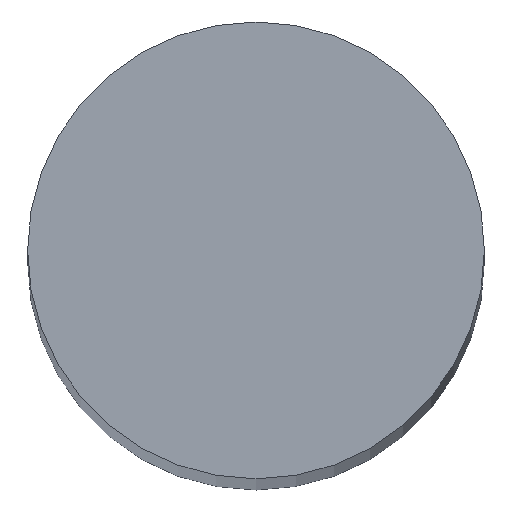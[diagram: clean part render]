
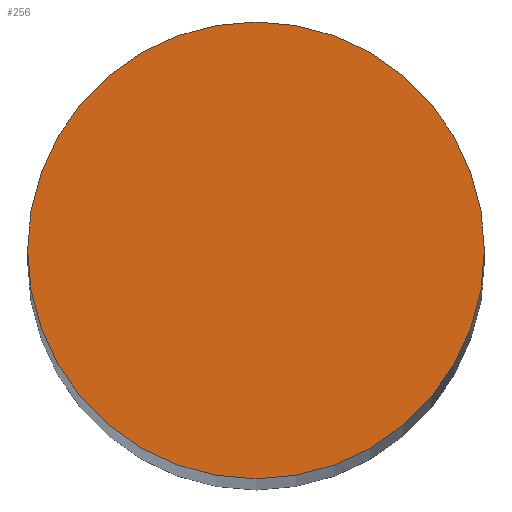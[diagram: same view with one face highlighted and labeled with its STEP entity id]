
A CAD part, top view. The second image highlights one B-rep face of the part: STEP entity #256.
In plain terms, the highlighted planar face has unit normal (0, 0, 1).
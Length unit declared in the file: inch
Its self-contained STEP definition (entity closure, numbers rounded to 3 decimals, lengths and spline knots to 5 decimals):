
#197=CARTESIAN_POINT('',(0.0,-0.0625,2.5));
#198=VERTEX_POINT('',#197);
#205=CARTESIAN_POINT('',(0.0,0.0625,2.5));
#206=VERTEX_POINT('',#205);
#207=CARTESIAN_POINT('',(0.0,0.0,2.5));
#208=DIRECTION('',(0.0,-0.0,-1.0));
#209=DIRECTION('',(0.0,1.0,-0.0));
#210=AXIS2_PLACEMENT_3D('',#207,#208,#209);
#211=CIRCLE('',#210,0.0625);
#212=EDGE_CURVE('no 1786',#198,#206,#211,.T.);
#232=CARTESIAN_POINT('',(0.0,0.0,2.5));
#233=DIRECTION('',(0.0,-0.0,-1.0));
#234=DIRECTION('',(0.0,1.0,-0.0));
#235=AXIS2_PLACEMENT_3D('',#232,#233,#234);
#236=CIRCLE('',#235,0.0625);
#237=EDGE_CURVE('no 1790',#206,#198,#236,.T.);
#247=ORIENTED_EDGE('',*,*,#212,.F.);
#248=ORIENTED_EDGE('',*,*,#237,.F.);
#249=EDGE_LOOP('',(#247,#248));
#250=FACE_OUTER_BOUND('',#249,.T.);
#251=CARTESIAN_POINT('',(0.0625,0.0,2.5));
#252=DIRECTION('',(0.0,0.0,1.0));
#253=DIRECTION('',(0.0,-1.0,0.0));
#254=AXIS2_PLACEMENT_3D('',#251,#252,#253);
#255=PLANE('',#254);
#256=ADVANCED_FACE('no 1923',(#250),#255,.T.);
